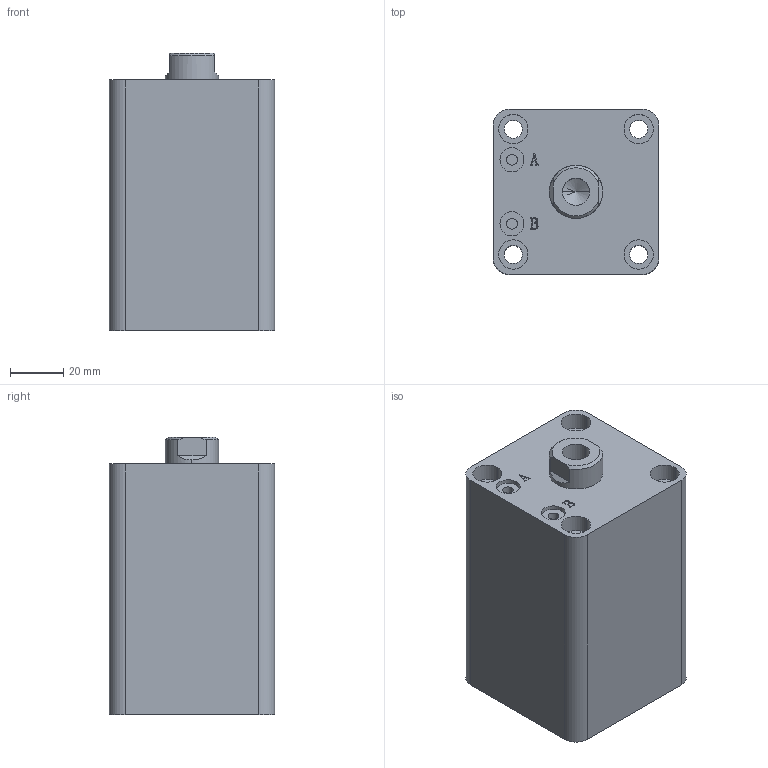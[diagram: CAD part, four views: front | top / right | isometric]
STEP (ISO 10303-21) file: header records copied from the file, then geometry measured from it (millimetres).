
FILE_DESCRIPTION (( 'STEP AP203' ), '1' );
FILE_NAME ('HTB-SDMA32-40N.STEP', '2019-10-07T11:40:35', ( '微软用户' ), ( '微软中国' ), 'SwSTEP 2.0', 'SolidWorks 2012', '' );
FILE_SCHEMA (( 'CONFIG_CONTROL_DESIGN' ));
Length unit declared in the file: millimetre
Products named in the file (3): HTB-SDMA32-40N; HTB-SDMA32-40N活塞杆; HTB-SDMA32-40掛极
Assembly tree (2 placements, depth 2):
  HTB-SDMA32-40N
    HTB-SDMA32-40掛极
    HTB-SDMA32-40N活塞杆
Bounding box: 62 x 62 x 104 mm (x, y, z)
Volume: 323129.1 mm3; surface area: 55902.1 mm2
Topology: 2 solids, 2 shells, 137 faces, 331 edges, 217 vertices
Faces by surface type: plane 65, cylinder 46, bspline 16, torus 6, cone 4
Entity records: 5070 total; most frequent: CARTESIAN_POINT 1576, ORIENTED_EDGE 658, DIRECTION 647, EDGE_CURVE 329, AXIS2_PLACEMENT_3D 232, VERTEX_POINT 217, VECTOR 183, LINE 183
